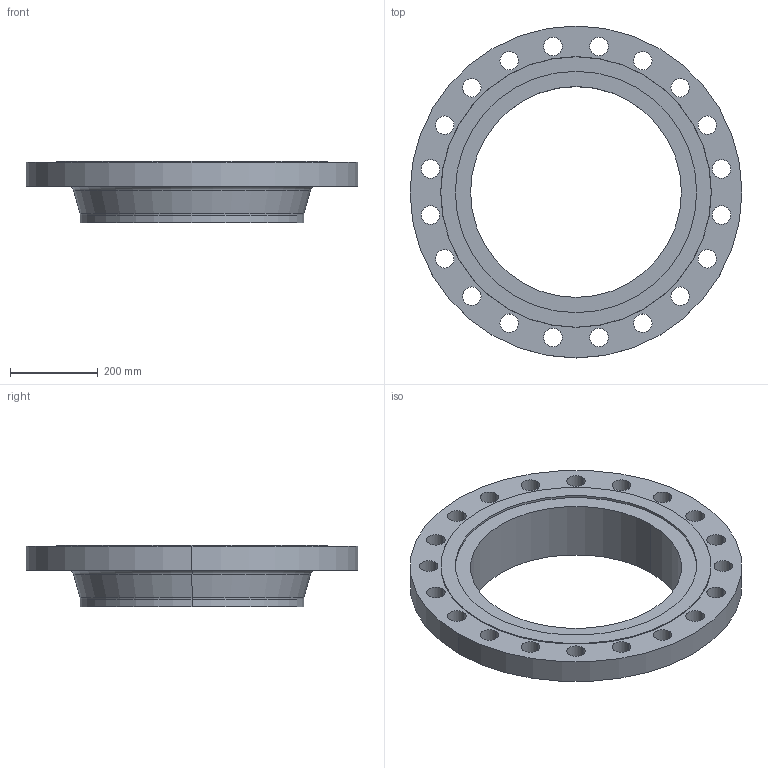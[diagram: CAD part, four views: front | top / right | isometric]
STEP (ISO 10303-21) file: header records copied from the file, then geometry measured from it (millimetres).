
FILE_DESCRIPTION (( 'STEP AP214' ), '1' );
FILE_NAME ('PN40 DN500 Type 11 - Type G Face.STEP', '2018-12-29T04:28:32', ( '' ), ( '' ), 'SwSTEP 2.0', 'SolidWorks 2019', '' );
FILE_SCHEMA (( 'AUTOMOTIVE_DESIGN' ));
Length unit declared in the file: millimetre
Products named in the file (1): PN40 DN500 Type 11 - Type G Face
Bounding box: 755 x 755 x 140 mm (x, y, z)
Volume: 15886696.5 mm3; surface area: 1075701.7 mm2
Topology: 1 solids, 1 shells, 61 faces, 162 edges, 106 vertices
Faces by surface type: cylinder 48, plane 5, torus 4, cone 4
Entity records: 2076 total; most frequent: DIRECTION 396, CARTESIAN_POINT 330, ORIENTED_EDGE 324, AXIS2_PLACEMENT_3D 172, EDGE_CURVE 162, CIRCLE 110, VERTEX_POINT 106, EDGE_LOOP 106
